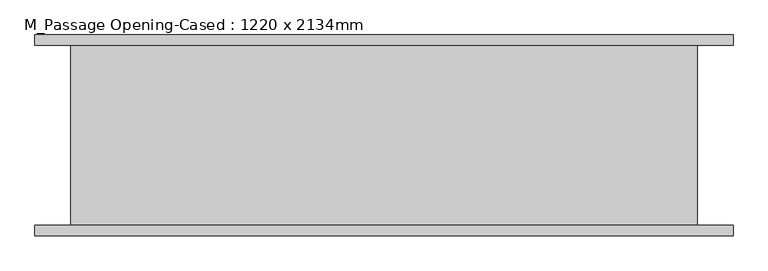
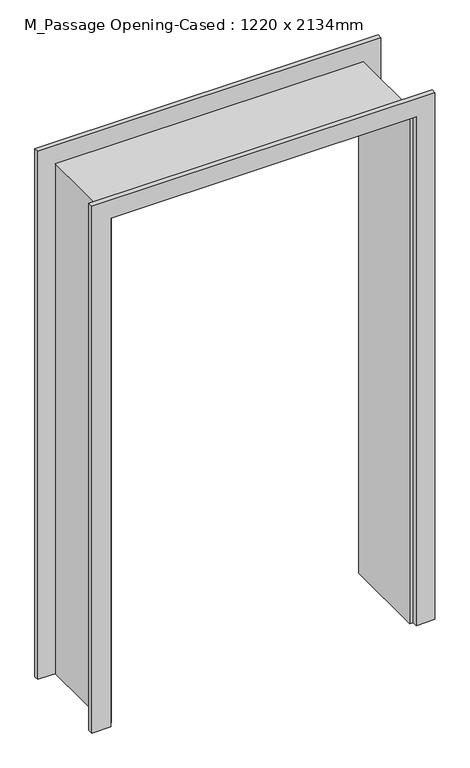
"""IFC4 building model written with IfcOpenShell, lengths in millimetres: proxy geometry, M_Passage Opening-Cased : 1220 x 2134mm."""

from ifc_helpers import new_model, si_unit, frame, origin, place, context, project, spatial, polyline, outline, extrude, faceted_brep, source, transform, mapped, element, save


def m_passage_opening_cased_1220_x_2134mm_f04423fa(model_context):
    return source(origin(), model_context, "Body", "SolidModel", [
        extrude(outline(polyline([(0.0, -611.8386567), (2127.65, -611.8386567), (2127.65, 595.4613433), (0.0, 595.4613433), (0.0, 670.4613433), (2202.65, 670.4613433), (2202.65, -686.8386567), (0.0, -686.8386567), (0.0, -611.8386567)])), frame((0.0, -195.0, 0.0), z_axis=(0.0, 1.0, 0.0), x_axis=(0.0, 0.0, 1.0)), (0.0, 0.0, 1.0), 20.0),
        extrude(outline(polyline([(0.0, 670.4613433), (2208.05, 670.4613433), (2208.05, -686.8386567), (0.0, -686.8386567), (0.0, -611.8386567), (2127.65, -611.8386567), (2127.65, 595.4613433), (0.0, 595.4613433), (0.0, 670.4613433)])), frame((0.0, 175.0, 0.0), z_axis=(0.0, 1.0, 0.0), x_axis=(0.0, 0.0, 1.0)), (0.0, 0.0, 1.0), 20.0),
        faceted_brep([(581.8113433, 175.0, 0.0), (600.8613433, 175.0, 0.0), (600.8613433, -175.0, 0.0), (581.8113433, -175.0, 0.0), (581.8113433, 175.0, 2114.0), (600.8613433, 175.0, 2133.05), (600.8613433, -175.0, 2133.05), (581.8113433, -175.0, 2114.0), (-598.1886567, 175.0, 2114.0), (-617.2386567, 175.0, 2133.05), (-617.2386567, -175.0, 2133.05), (-598.1886567, -175.0, 2114.0), (-598.1886567, 175.0, 0.0), (-598.1886567, -175.0, 0.0), (-617.2386567, -175.0, 0.0), (-617.2386567, 175.0, 0.0)], [[[0, 1, 2, 3]], [[1, 0, 4, 5]], [[2, 1, 5, 6]], [[3, 2, 6, 7]], [[0, 3, 7, 4]], [[5, 4, 8, 9]], [[6, 5, 9, 10]], [[7, 6, 10, 11]], [[4, 7, 11, 8]], [[12, 13, 14, 15]], [[9, 8, 12, 15]], [[10, 9, 15, 14]], [[11, 10, 14, 13]], [[8, 11, 13, 12]]]),
    ])


if __name__ == "__main__":
    model = new_model("IFC4")
    model_context = context("Model", 3, world=origin())
    ifc_project = project(units=[si_unit("LENGTHUNIT", "METRE", prefix="MILLI")], contexts=[model_context])
    site = spatial("IfcSite", under=ifc_project)
    building = spatial("IfcBuilding", under=site)
    placement = place(None, origin())
    m_passage_opening_cased_1220_x_2134mm_shape = m_passage_opening_cased_1220_x_2134mm_f04423fa(model_context)
    element("IfcBuildingElementProxy", 1, Name="M_Passage Opening-Cased : 1220 x 2134mm", ObjectType="M_Passage Opening-Cased : 1220 x 2134mm", at=placement, inside=building, context=model_context, shape_type="MappedRepresentation", body=[
        mapped(m_passage_opening_cased_1220_x_2134mm_shape, transform((0.0, 0.0, 0.0), x_axis=(1.0, 0.0, 0.0), y_axis=(0.0, 1.0, 0.0), z_axis=(0.0, 0.0, 1.0))),
    ])
    save(model, "model.ifc")
